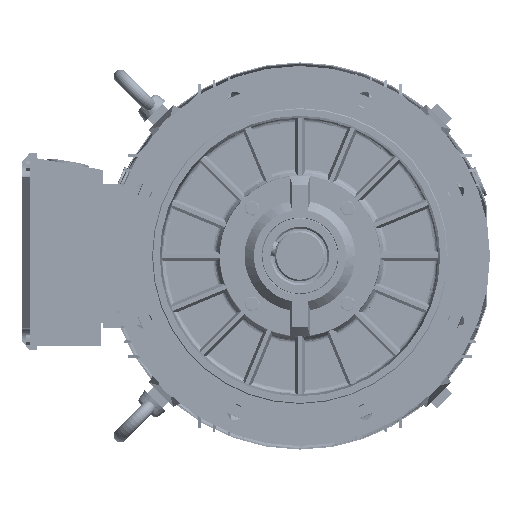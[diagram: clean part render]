
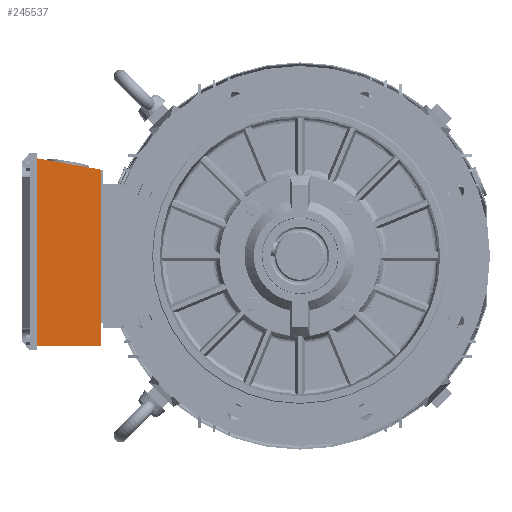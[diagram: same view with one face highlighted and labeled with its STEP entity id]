
A CAD part, left-side view. The second image highlights one B-rep face of the part: STEP entity #245537.
In plain terms, the highlighted planar face has unit normal (-1, 0, 0).
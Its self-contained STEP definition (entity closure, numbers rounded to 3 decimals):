
#11661 = ORIENTED_EDGE ( 'NONE', *, *, #199965, .T. ) ;
#23007 = LINE ( 'NONE', #155101, #67847 ) ;
#30614 = CARTESIAN_POINT ( 'NONE',  ( -30.206, 291.768, -106.82 ) ) ;
#41847 = LINE ( 'NONE', #107870, #192123 ) ;
#64025 = CARTESIAN_POINT ( 'NONE',  ( -30.206, 215.768, -106.82 ) ) ;
#67847 = VECTOR ( 'NONE', #228549, 1000. ) ;
#88744 = CARTESIAN_POINT ( 'NONE',  ( -30.206, 291.768, 115.581 ) ) ;
#94707 = LINE ( 'NONE', #96175, #205451 ) ;
#96175 = CARTESIAN_POINT ( 'NONE',  ( -30.206, 215.768, -106.82 ) ) ;
#102283 = CARTESIAN_POINT ( 'NONE',  ( -30.206, 215.768, 102.18 ) ) ;
#102914 = ORIENTED_EDGE ( 'NONE', *, *, #116620, .T. ) ;
#107870 = CARTESIAN_POINT ( 'NONE',  ( -30.206, 215.768, 102.18 ) ) ;
#109800 = ORIENTED_EDGE ( 'NONE', *, *, #148541, .T. ) ;
#111404 = LINE ( 'NONE', #138328, #231130 ) ;
#115540 = CARTESIAN_POINT ( 'NONE',  ( -30.206, 291.768, -106.82 ) ) ;
#116620 = EDGE_CURVE ( 'NONE', #282725, #248225, #41847, .T. ) ;
#122119 = DIRECTION ( 'NONE',  ( 1., 0., 0. ) ) ;
#138328 = CARTESIAN_POINT ( 'NONE',  ( -30.206, 291.768, -106.82 ) ) ;
#139702 = DIRECTION ( 'NONE',  ( 0., -1., 0. ) ) ;
#142221 = AXIS2_PLACEMENT_3D ( 'NONE', #30614, #122119, #234702 ) ;
#147570 = PLANE ( 'NONE',  #142221 ) ;
#148541 = EDGE_CURVE ( 'NONE', #167158, #294639, #94707, .T. ) ;
#155101 = CARTESIAN_POINT ( 'NONE',  ( -30.206, 215.768, -106.82 ) ) ;
#167158 = VERTEX_POINT ( 'NONE', #115540 ) ;
#168656 = FACE_OUTER_BOUND ( 'NONE', #187042, .T. ) ;
#187042 = EDGE_LOOP ( 'NONE', ( #109800, #11661, #102914, #197791 ) ) ;
#192123 = VECTOR ( 'NONE', #199397, 1000. ) ;
#197791 = ORIENTED_EDGE ( 'NONE', *, *, #207257, .T. ) ;
#199397 = DIRECTION ( 'NONE',  ( 0., 0.985, 0.174 ) ) ;
#199965 = EDGE_CURVE ( 'NONE', #294639, #282725, #23007, .T. ) ;
#205451 = VECTOR ( 'NONE', #139702, 1000. ) ;
#207257 = EDGE_CURVE ( 'NONE', #248225, #167158, #111404, .T. ) ;
#207363 = DIRECTION ( 'NONE',  ( 0., 0., -1. ) ) ;
#228549 = DIRECTION ( 'NONE',  ( 0., 0., 1. ) ) ;
#231130 = VECTOR ( 'NONE', #207363, 1000. ) ;
#234702 = DIRECTION ( 'NONE',  ( 0., -1., 0. ) ) ;
#245537 = ADVANCED_FACE ( 'NONE', ( #168656 ), #147570, .F. ) ;
#248225 = VERTEX_POINT ( 'NONE', #88744 ) ;
#282725 = VERTEX_POINT ( 'NONE', #102283 ) ;
#294639 = VERTEX_POINT ( 'NONE', #64025 ) ;
